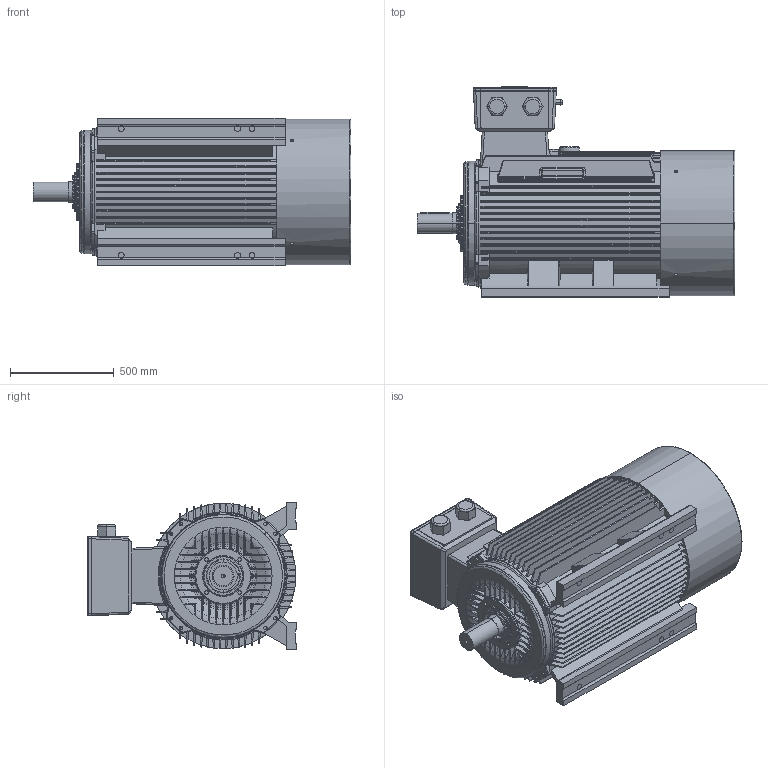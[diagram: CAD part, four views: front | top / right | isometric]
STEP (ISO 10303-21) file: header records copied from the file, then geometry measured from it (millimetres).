
FILE_DESCRIPTION((''),'2;1');
FILE_NAME('ASM0001_ASM','2015-02-13T',('tecnicocad'),(''),'PRO/ENGINEER BY PARAMETRIC TECHNOLOGY CORPORATION, 2011330','PRO/ENGINEER BY PARAMETRIC TECHNOLOGY CORPORATION, 2011330','');
FILE_SCHEMA(('CONFIG_CONTROL_DESIGN'));
Length unit declared in the file: millimetre
Products named in the file (10): BODY355; IMPORTED1-61428; IMPORTED2-61483; B3355_ASM; SH355_4_8P; NONE; SCALE2_2_; TBOX_355_ASM; FCV355; ASM0001_ASM
Assembly tree (9 placements, depth 3):
  ASM0001_ASM
    BODY355
    B3355_ASM
      IMPORTED1-61428
      IMPORTED2-61483
    SH355_4_8P
    TBOX_355_ASM
      NONE
      SCALE2_2_
    FCV355
Bounding box: 1530 x 1010.72 x 710 mm (x, y, z)
Volume: 257627995.9 mm3; surface area: 12813925.5 mm2
Topology: 7 solids, 9 shells, 1821 faces, 4853 edges, 3123 vertices
Faces by surface type: plane 557, cylinder 502, cone 188, bspline 178, torus 173, revolution 119, extrusion 104
Entity records: 74292 total; most frequent: CARTESIAN_POINT 31554, ORIENTED_EDGE 9702, DIRECTION 7579, EDGE_CURVE 4851, VERTEX_POINT 3123, AXIS2_PLACEMENT_3D 2821, B_SPLINE_CURVE_WITH_KNOTS 1982, EDGE_LOOP 1968
